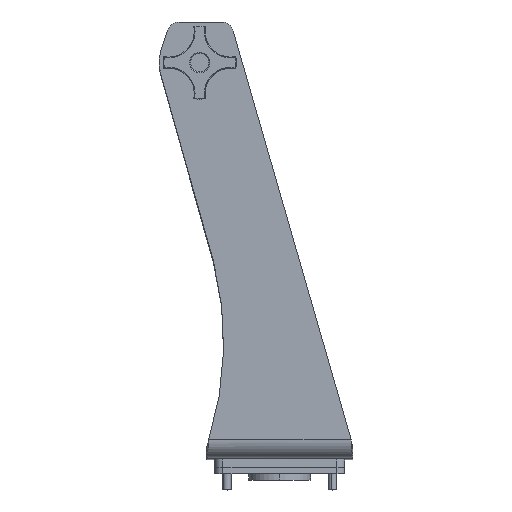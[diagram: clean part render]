
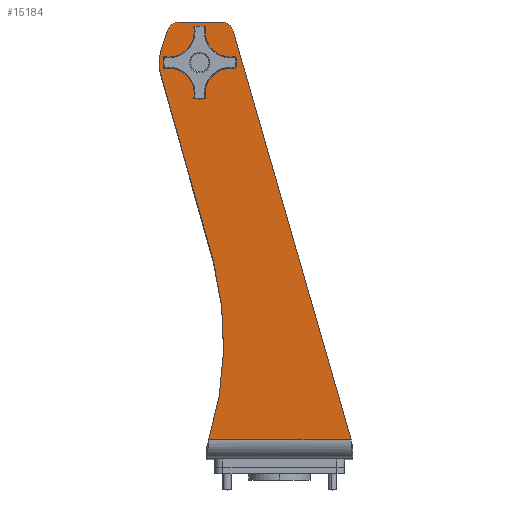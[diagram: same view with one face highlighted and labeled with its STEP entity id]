
A CAD part, top view. The second image highlights one B-rep face of the part: STEP entity #15184.
In plain terms, the highlighted planar face has unit normal (0, 0, 1) as drawn and (-1, 0, 0) by its records, which use the part's own axes.
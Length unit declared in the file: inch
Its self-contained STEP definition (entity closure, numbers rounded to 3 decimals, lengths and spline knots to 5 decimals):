
#153 = CARTESIAN_POINT ( 'NONE',  ( -12.3755, 12.53753, -3.6619 ) ) ;
#281 = DIRECTION ( 'NONE',  ( 0., -1., 0. ) ) ;
#315 = ORIENTED_EDGE ( 'NONE', *, *, #22362, .F. ) ;
#731 = CIRCLE ( 'NONE', #20684, 10. ) ;
#1181 = EDGE_CURVE ( 'NONE', #13696, #14277, #14645, .T. ) ;
#1807 = FACE_OUTER_BOUND ( 'NONE', #17315, .T. ) ;
#2474 = EDGE_CURVE ( 'NONE', #7149, #22745, #21350, .T. ) ;
#2717 = LINE ( 'NONE', #16074, #20673 ) ;
#2971 = VERTEX_POINT ( 'NONE', #9455 ) ;
#3074 = DIRECTION ( 'NONE',  ( 0., 0.963, -0.271 ) ) ;
#3333 = LINE ( 'NONE', #14617, #12736 ) ;
#3515 = ORIENTED_EDGE ( 'NONE', *, *, #13814, .F. ) ;
#4311 = DIRECTION ( 'NONE',  ( 0., -1., 0. ) ) ;
#5307 = CARTESIAN_POINT ( 'NONE',  ( -12.3755, 11.81447, -3.6619 ) ) ;
#5480 = FACE_BOUND ( 'NONE', #9728, .T. ) ;
#5637 = AXIS2_PLACEMENT_3D ( 'NONE', #7864, #6153, #4311 ) ;
#5793 = CARTESIAN_POINT ( 'NONE',  ( -12.3755, 13.426, -1.79451 ) ) ;
#5841 = VECTOR ( 'NONE', #3074, 39.37008 ) ;
#6153 = DIRECTION ( 'NONE',  ( 1., 0., 0. ) ) ;
#6497 = CIRCLE ( 'NONE', #20184, 0.1955 ) ;
#6532 = CARTESIAN_POINT ( 'NONE',  ( -12.3755, 12.176, -2.46533 ) ) ;
#6802 = CARTESIAN_POINT ( 'NONE',  ( -12.3755, 3.56814, -11.72649 ) ) ;
#7149 = VERTEX_POINT ( 'NONE', #20486 ) ;
#7570 = ORIENTED_EDGE ( 'NONE', *, *, #11333, .F. ) ;
#7864 = CARTESIAN_POINT ( 'NONE',  ( -12.3755, 12.176, -2.46533 ) ) ;
#8445 = ORIENTED_EDGE ( 'NONE', *, *, #22118, .T. ) ;
#8543 = VERTEX_POINT ( 'NONE', #15876 ) ;
#8730 = ORIENTED_EDGE ( 'NONE', *, *, #23103, .F. ) ;
#8809 = DIRECTION ( 'NONE',  ( 1., 0., 0. ) ) ;
#8821 = ORIENTED_EDGE ( 'NONE', *, *, #1181, .F. ) ;
#8901 = DIRECTION ( 'NONE',  ( 0., -1., 0. ) ) ;
#9089 = DIRECTION ( 'NONE',  ( 0., -0.961, 0.277 ) ) ;
#9455 = CARTESIAN_POINT ( 'NONE',  ( -12.3755, 11.9805, -2.46533 ) ) ;
#9641 = CARTESIAN_POINT ( 'NONE',  ( -12.3755, 3.56814, -11.72649 ) ) ;
#9655 = CARTESIAN_POINT ( 'NONE',  ( -12.3755, 6.07712, -2.04636 ) ) ;
#9723 = CARTESIAN_POINT ( 'NONE',  ( -12.3755, 13.05126, -3.10022 ) ) ;
#9728 = EDGE_LOOP ( 'NONE', ( #19651, #17340 ) ) ;
#9816 = CARTESIAN_POINT ( 'NONE',  ( -12.3755, 12.3715, -2.46533 ) ) ;
#10769 = DIRECTION ( 'NONE',  ( 0., 1., 0. ) ) ;
#10807 = AXIS2_PLACEMENT_3D ( 'NONE', #9641, #20657, #18827 ) ;
#10985 = DIRECTION ( 'NONE',  ( -1., 0., 0. ) ) ;
#11333 = EDGE_CURVE ( 'NONE', #12260, #14074, #3333, .T. ) ;
#11753 = ORIENTED_EDGE ( 'NONE', *, *, #13236, .F. ) ;
#12260 = VERTEX_POINT ( 'NONE', #17669 ) ;
#12281 = CARTESIAN_POINT ( 'NONE',  ( -12.3755, 11.81447, -3.6619 ) ) ;
#12298 = DIRECTION ( 'NONE',  ( 1., 0., 0. ) ) ;
#12736 = VECTOR ( 'NONE', #9089, 39.37008 ) ;
#12982 = ORIENTED_EDGE ( 'NONE', *, *, #2474, .F. ) ;
#13236 = EDGE_CURVE ( 'NONE', #14277, #7149, #20278, .T. ) ;
#13270 = DIRECTION ( 'NONE',  ( 0., 0., 1. ) ) ;
#13516 = AXIS2_PLACEMENT_3D ( 'NONE', #6532, #12298, #19740 ) ;
#13517 = CARTESIAN_POINT ( 'NONE',  ( -12.3755, 13.426, -1.79451 ) ) ;
#13696 = VERTEX_POINT ( 'NONE', #5307 ) ;
#13814 = EDGE_CURVE ( 'NONE', #22745, #14472, #20950, .T. ) ;
#14074 = VERTEX_POINT ( 'NONE', #21363 ) ;
#14277 = VERTEX_POINT ( 'NONE', #153 ) ;
#14375 = DIRECTION ( 'NONE',  ( 0., 0., 1. ) ) ;
#14472 = VERTEX_POINT ( 'NONE', #13517 ) ;
#14617 = CARTESIAN_POINT ( 'NONE',  ( -12.3755, 13.14147, -1.43079 ) ) ;
#14627 = EDGE_CURVE ( 'NONE', #22869, #2971, #23657, .T. ) ;
#14645 = CIRCLE ( 'NONE', #5637, 1.25 ) ;
#14802 = DIRECTION ( 'NONE',  ( 0., 0.951, 0.31 ) ) ;
#15184 = ADVANCED_FACE ( 'NONE', ( #5480, #1807 ), #16628, .T. ) ;
#15876 = CARTESIAN_POINT ( 'NONE',  ( -12.3755, 0.563, -2.18872 ) ) ;
#16074 = CARTESIAN_POINT ( 'NONE',  ( -12.3755, 0.563, -11.72649 ) ) ;
#16628 = PLANE ( 'NONE',  #10807 ) ;
#17315 = EDGE_LOOP ( 'NONE', ( #18901, #8445, #7570, #315, #3515, #12982, #11753, #8821, #8730 ) ) ;
#17340 = ORIENTED_EDGE ( 'NONE', *, *, #19727, .T. ) ;
#17669 = CARTESIAN_POINT ( 'NONE',  ( -12.3755, 13.14147, -1.43079 ) ) ;
#17885 = LINE ( 'NONE', #12281, #5841 ) ;
#17937 = AXIS2_PLACEMENT_3D ( 'NONE', #18067, #21976, #8901 ) ;
#18067 = CARTESIAN_POINT ( 'NONE',  ( -12.3755, 13.05126, -1.79451 ) ) ;
#18226 = VECTOR ( 'NONE', #14802, 39.37008 ) ;
#18438 = DIRECTION ( 'NONE',  ( 0., -1., 0. ) ) ;
#18827 = DIRECTION ( 'NONE',  ( 0., 1., 0. ) ) ;
#18901 = ORIENTED_EDGE ( 'NONE', *, *, #22402, .F. ) ;
#19259 = DIRECTION ( 'NONE',  ( 1., 0., 0. ) ) ;
#19651 = ORIENTED_EDGE ( 'NONE', *, *, #14627, .T. ) ;
#19727 = EDGE_CURVE ( 'NONE', #2971, #22869, #6497, .T. ) ;
#19740 = DIRECTION ( 'NONE',  ( 0., 1., 0. ) ) ;
#19750 = CARTESIAN_POINT ( 'NONE',  ( -12.3755, 13.426, -3.10022 ) ) ;
#19889 = CIRCLE ( 'NONE', #17937, 0.37474 ) ;
#20184 = AXIS2_PLACEMENT_3D ( 'NONE', #21638, #8809, #10769 ) ;
#20278 = LINE ( 'NONE', #24041, #18226 ) ;
#20486 = CARTESIAN_POINT ( 'NONE',  ( -12.3755, 13.15965, -3.45894 ) ) ;
#20657 = DIRECTION ( 'NONE',  ( -1., 0., 0. ) ) ;
#20673 = VECTOR ( 'NONE', #14375, 39.37008 ) ;
#20684 = AXIS2_PLACEMENT_3D ( 'NONE', #6802, #10985, #18438 ) ;
#20923 = VERTEX_POINT ( 'NONE', #9655 ) ;
#20950 = LINE ( 'NONE', #5793, #21745 ) ;
#21350 = CIRCLE ( 'NONE', #22897, 0.37474 ) ;
#21363 = CARTESIAN_POINT ( 'NONE',  ( -12.3755, 0.563, 2.1958 ) ) ;
#21638 = CARTESIAN_POINT ( 'NONE',  ( -12.3755, 12.176, -2.46533 ) ) ;
#21745 = VECTOR ( 'NONE', #13270, 39.37008 ) ;
#21976 = DIRECTION ( 'NONE',  ( 1., 0., 0. ) ) ;
#22118 = EDGE_CURVE ( 'NONE', #8543, #14074, #2717, .T. ) ;
#22362 = EDGE_CURVE ( 'NONE', #14472, #12260, #19889, .T. ) ;
#22402 = EDGE_CURVE ( 'NONE', #8543, #20923, #731, .T. ) ;
#22745 = VERTEX_POINT ( 'NONE', #19750 ) ;
#22869 = VERTEX_POINT ( 'NONE', #9816 ) ;
#22897 = AXIS2_PLACEMENT_3D ( 'NONE', #9723, #19259, #281 ) ;
#23103 = EDGE_CURVE ( 'NONE', #20923, #13696, #17885, .T. ) ;
#23657 = CIRCLE ( 'NONE', #13516, 0.1955 ) ;
#24041 = CARTESIAN_POINT ( 'NONE',  ( -12.3755, 12.53753, -3.6619 ) ) ;
